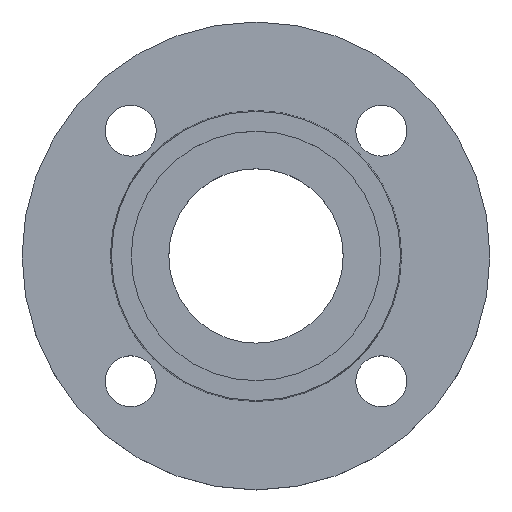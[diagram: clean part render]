
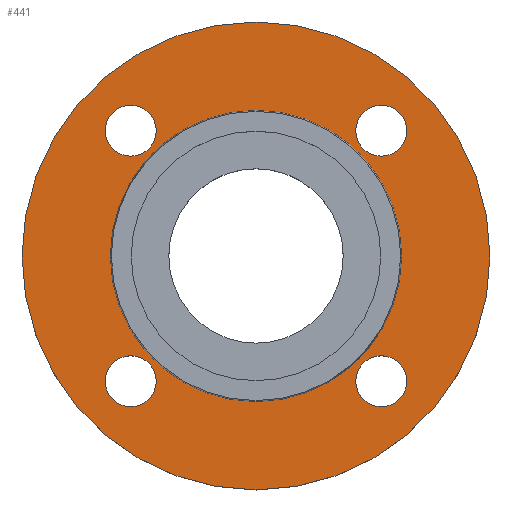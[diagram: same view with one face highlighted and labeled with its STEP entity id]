
A CAD part, top view. The second image highlights one B-rep face of the part: STEP entity #441.
In plain terms, the highlighted planar face has unit normal (0, 0, 1).
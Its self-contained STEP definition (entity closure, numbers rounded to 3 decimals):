
#9 = EDGE_CURVE ( 'NONE', #551, #574, #395, .T. ) ;
#17 = DIRECTION ( 'NONE',  ( 1., 0., 0. ) ) ;
#20 = DIRECTION ( 'NONE',  ( 0., 0., 1. ) ) ;
#22 = CARTESIAN_POINT ( 'NONE',  ( 51.353, 0., -2. ) ) ;
#23 = PLANE ( 'NONE',  #69 ) ;
#24 = FACE_OUTER_BOUND ( 'NONE', #429, .T. ) ;
#25 = FACE_BOUND ( 'NONE', #424, .T. ) ;
#26 = FACE_BOUND ( 'NONE', #577, .T. ) ;
#28 = FACE_BOUND ( 'NONE', #460, .T. ) ;
#29 = FACE_BOUND ( 'NONE', #469, .T. ) ;
#30 = FACE_BOUND ( 'NONE', #419, .T. ) ;
#58 = CARTESIAN_POINT ( 'NONE',  ( 51.353, 0., -2. ) ) ;
#59 = CARTESIAN_POINT ( 'NONE',  ( -35.194, 44.194, -2. ) ) ;
#69 = AXIS2_PLACEMENT_3D ( 'NONE', #22, #20, #17 ) ;
#70 = EDGE_CURVE ( 'NONE', #590, #379, #550, .T. ) ;
#72 = EDGE_CURVE ( 'NONE', #379, #590, #438, .T. ) ;
#84 = DIRECTION ( 'NONE',  ( 0., 0., -1. ) ) ;
#88 = DIRECTION ( 'NONE',  ( 1., 0., 0. ) ) ;
#90 = DIRECTION ( 'NONE',  ( 0., 0., -1. ) ) ;
#91 = CARTESIAN_POINT ( 'NONE',  ( -44.194, 44.194, -2. ) ) ;
#97 = CARTESIAN_POINT ( 'NONE',  ( -51.353, 0., -2. ) ) ;
#105 = EDGE_CURVE ( 'NONE', #368, #576, #492, .T. ) ;
#109 = CIRCLE ( 'NONE', #111, 9. ) ;
#111 = AXIS2_PLACEMENT_3D ( 'NONE', #544, #84, #136 ) ;
#115 = EDGE_CURVE ( 'NONE', #478, #566, #523, .T. ) ;
#118 = CARTESIAN_POINT ( 'NONE',  ( 82.5, 0., -2. ) ) ;
#134 = CARTESIAN_POINT ( 'NONE',  ( 53.194, 44.194, -2. ) ) ;
#136 = DIRECTION ( 'NONE',  ( 1., 0., 0. ) ) ;
#139 = CIRCLE ( 'NONE', #147, 82.5 ) ;
#147 = AXIS2_PLACEMENT_3D ( 'NONE', #266, #635, #581 ) ;
#160 = EDGE_CURVE ( 'NONE', #475, #564, #289, .T. ) ;
#164 = CIRCLE ( 'NONE', #165, 9. ) ;
#165 = AXIS2_PLACEMENT_3D ( 'NONE', #598, #584, #586 ) ;
#166 = CIRCLE ( 'NONE', #168, 9. ) ;
#168 = AXIS2_PLACEMENT_3D ( 'NONE', #573, #580, #565 ) ;
#170 = CIRCLE ( 'NONE', #181, 9. ) ;
#181 = AXIS2_PLACEMENT_3D ( 'NONE', #543, #541, #557 ) ;
#243 = CARTESIAN_POINT ( 'NONE',  ( -35.194, -44.194, -2. ) ) ;
#266 = CARTESIAN_POINT ( 'NONE',  ( 0., 0., -2. ) ) ;
#270 = CARTESIAN_POINT ( 'NONE',  ( 35.194, -44.194, -2. ) ) ;
#287 = DIRECTION ( 'NONE',  ( 1., 0., 0. ) ) ;
#288 = AXIS2_PLACEMENT_3D ( 'NONE', #294, #291, #287 ) ;
#289 = CIRCLE ( 'NONE', #288, 9. ) ;
#291 = DIRECTION ( 'NONE',  ( 0., 0., -1. ) ) ;
#294 = CARTESIAN_POINT ( 'NONE',  ( 44.194, 44.194, -2. ) ) ;
#302 = DIRECTION ( 'NONE',  ( 1., 0., 0. ) ) ;
#303 = DIRECTION ( 'NONE',  ( 0., 0., -1. ) ) ;
#304 = CARTESIAN_POINT ( 'NONE',  ( -44.194, -44.194, -2. ) ) ;
#308 = CIRCLE ( 'NONE', #314, 9. ) ;
#310 = DIRECTION ( 'NONE',  ( -1., 0., 0. ) ) ;
#311 = DIRECTION ( 'NONE',  ( 0., 0., -1. ) ) ;
#314 = AXIS2_PLACEMENT_3D ( 'NONE', #91, #90, #88 ) ;
#327 = CARTESIAN_POINT ( 'NONE',  ( 0., 0., -2. ) ) ;
#328 = DIRECTION ( 'NONE',  ( -1., 0., 0. ) ) ;
#330 = DIRECTION ( 'NONE',  ( 0., 0., -1. ) ) ;
#331 = CARTESIAN_POINT ( 'NONE',  ( 0., 0., -2. ) ) ;
#335 = DIRECTION ( 'NONE',  ( -1., 0., 0. ) ) ;
#336 = DIRECTION ( 'NONE',  ( 0., 0., -1. ) ) ;
#338 = CARTESIAN_POINT ( 'NONE',  ( 0., 0., -2. ) ) ;
#351 = AXIS2_PLACEMENT_3D ( 'NONE', #327, #311, #310 ) ;
#358 = DIRECTION ( 'NONE',  ( 1., 0., 0. ) ) ;
#359 = DIRECTION ( 'NONE',  ( 0., 0., -1. ) ) ;
#360 = CARTESIAN_POINT ( 'NONE',  ( 44.194, -44.194, -2. ) ) ;
#368 = VERTEX_POINT ( 'NONE', #118 ) ;
#379 = VERTEX_POINT ( 'NONE', #97 ) ;
#390 = CARTESIAN_POINT ( 'NONE',  ( -82.5, 0., -2. ) ) ;
#393 = AXIS2_PLACEMENT_3D ( 'NONE', #360, #359, #358 ) ;
#394 = EDGE_CURVE ( 'NONE', #592, #418, #308, .T. ) ;
#395 = CIRCLE ( 'NONE', #393, 9. ) ;
#405 = CARTESIAN_POINT ( 'NONE',  ( -53.194, 44.194, -2. ) ) ;
#418 = VERTEX_POINT ( 'NONE', #59 ) ;
#419 = EDGE_LOOP ( 'NONE', ( #648, #649 ) ) ;
#424 = EDGE_LOOP ( 'NONE', ( #528, #522 ) ) ;
#429 = EDGE_LOOP ( 'NONE', ( #518, #520 ) ) ;
#436 = AXIS2_PLACEMENT_3D ( 'NONE', #331, #330, #328 ) ;
#438 = CIRCLE ( 'NONE', #436, 51.353 ) ;
#441 = ADVANCED_FACE ( 'NONE', ( #30, #29, #28, #26, #25, #24 ), #23, .T. ) ;
#449 = EDGE_CURVE ( 'NONE', #564, #475, #109, .T. ) ;
#455 = CARTESIAN_POINT ( 'NONE',  ( 35.194, 44.194, -2. ) ) ;
#457 = CARTESIAN_POINT ( 'NONE',  ( -53.194, -44.194, -2. ) ) ;
#460 = EDGE_LOOP ( 'NONE', ( #656, #660 ) ) ;
#464 = AXIS2_PLACEMENT_3D ( 'NONE', #338, #336, #335 ) ;
#469 = EDGE_LOOP ( 'NONE', ( #650, #652 ) ) ;
#475 = VERTEX_POINT ( 'NONE', #134 ) ;
#478 = VERTEX_POINT ( 'NONE', #243 ) ;
#492 = CIRCLE ( 'NONE', #351, 82.5 ) ;
#508 = CARTESIAN_POINT ( 'NONE',  ( 53.194, -44.194, -2. ) ) ;
#518 = ORIENTED_EDGE ( 'NONE', *, *, #105, .F. ) ;
#520 = ORIENTED_EDGE ( 'NONE', *, *, #646, .F. ) ;
#522 = ORIENTED_EDGE ( 'NONE', *, *, #70, .T. ) ;
#523 = CIRCLE ( 'NONE', #591, 9. ) ;
#528 = ORIENTED_EDGE ( 'NONE', *, *, #72, .T. ) ;
#541 = DIRECTION ( 'NONE',  ( 0., 0., -1. ) ) ;
#543 = CARTESIAN_POINT ( 'NONE',  ( -44.194, -44.194, -2. ) ) ;
#544 = CARTESIAN_POINT ( 'NONE',  ( 44.194, 44.194, -2. ) ) ;
#550 = CIRCLE ( 'NONE', #464, 51.353 ) ;
#551 = VERTEX_POINT ( 'NONE', #270 ) ;
#557 = DIRECTION ( 'NONE',  ( 1., 0., 0. ) ) ;
#564 = VERTEX_POINT ( 'NONE', #455 ) ;
#565 = DIRECTION ( 'NONE',  ( 1., 0., 0. ) ) ;
#566 = VERTEX_POINT ( 'NONE', #457 ) ;
#573 = CARTESIAN_POINT ( 'NONE',  ( -44.194, 44.194, -2. ) ) ;
#574 = VERTEX_POINT ( 'NONE', #508 ) ;
#576 = VERTEX_POINT ( 'NONE', #390 ) ;
#577 = EDGE_LOOP ( 'NONE', ( #661, #664 ) ) ;
#580 = DIRECTION ( 'NONE',  ( 0., 0., -1. ) ) ;
#581 = DIRECTION ( 'NONE',  ( -1., 0., 0. ) ) ;
#584 = DIRECTION ( 'NONE',  ( 0., 0., -1. ) ) ;
#586 = DIRECTION ( 'NONE',  ( 1., 0., 0. ) ) ;
#590 = VERTEX_POINT ( 'NONE', #58 ) ;
#591 = AXIS2_PLACEMENT_3D ( 'NONE', #304, #303, #302 ) ;
#592 = VERTEX_POINT ( 'NONE', #405 ) ;
#598 = CARTESIAN_POINT ( 'NONE',  ( 44.194, -44.194, -2. ) ) ;
#635 = DIRECTION ( 'NONE',  ( 0., 0., -1. ) ) ;
#646 = EDGE_CURVE ( 'NONE', #576, #368, #139, .T. ) ;
#648 = ORIENTED_EDGE ( 'NONE', *, *, #655, .T. ) ;
#649 = ORIENTED_EDGE ( 'NONE', *, *, #9, .T. ) ;
#650 = ORIENTED_EDGE ( 'NONE', *, *, #115, .T. ) ;
#652 = ORIENTED_EDGE ( 'NONE', *, *, #667, .T. ) ;
#655 = EDGE_CURVE ( 'NONE', #574, #551, #164, .T. ) ;
#656 = ORIENTED_EDGE ( 'NONE', *, *, #662, .T. ) ;
#660 = ORIENTED_EDGE ( 'NONE', *, *, #394, .T. ) ;
#661 = ORIENTED_EDGE ( 'NONE', *, *, #160, .T. ) ;
#662 = EDGE_CURVE ( 'NONE', #418, #592, #166, .T. ) ;
#664 = ORIENTED_EDGE ( 'NONE', *, *, #449, .T. ) ;
#667 = EDGE_CURVE ( 'NONE', #566, #478, #170, .T. ) ;
